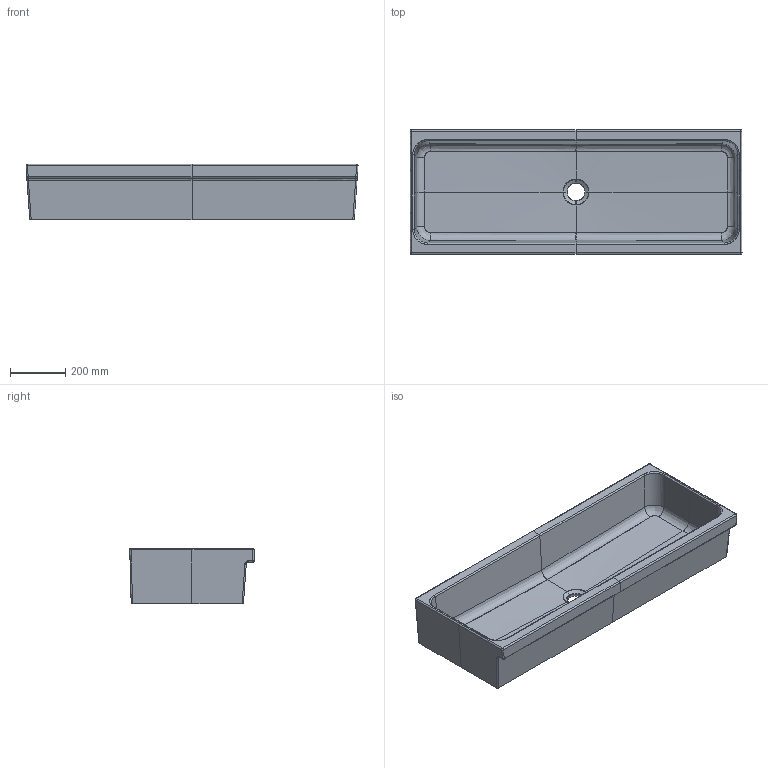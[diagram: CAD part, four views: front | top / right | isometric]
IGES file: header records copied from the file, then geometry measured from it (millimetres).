
Start section: START RECORD GO HERE.
Global section: file name: nuovo Art 2007_CANALE 120.igs; native system: DASSAULT SYSTEMES CATIA V5 R19 - www.3ds.com; preprocessor: CATIA Version 5 Release 19 SP 5 ; author: Luca; organization: DESKTOP-V7SON24; date: 20211010.094700; units: millimetre
Bounding box: 1199.33 x 449.87 x 200 mm (x, y, z)
Surface area: 2127883.4 mm2 (no closed solid volume)
Topology: 0 solids, 0 shells, 164 faces, 741 edges, 740 vertices
Faces by surface type: bspline 74, revolution 66, plane 24
